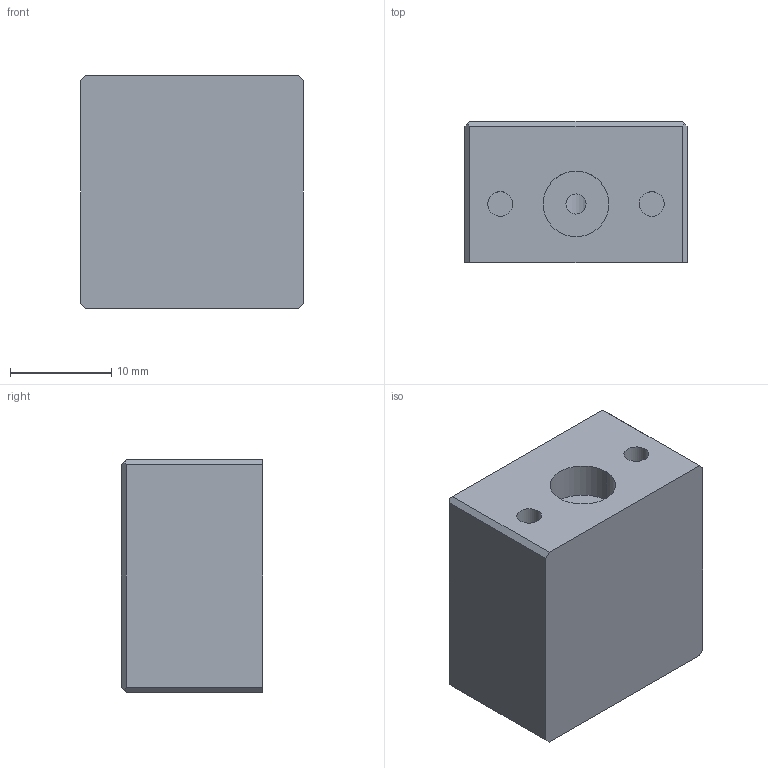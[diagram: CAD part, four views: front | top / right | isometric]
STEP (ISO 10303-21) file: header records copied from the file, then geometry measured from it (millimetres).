
FILE_DESCRIPTION(('CATIA V5 STEP Exchange'),'2;1');
FILE_NAME('G:\够快云库\系统集成开发部\1.部门成员\孙国\工装\气密检测工装\STP\轻卡悬浮阀\GZ-QKQM02_V1 密封头.stp','2021-08-26T02:01:22+00:00',('none'),('none'),'CATIA Version 5 Release 20 GA (IN-10)','CATIA V5 STEP AP214','none');
FILE_SCHEMA(('AUTOMOTIVE_DESIGN { 1 0 10303 214 1 1 1 1 }'));
Length unit declared in the file: millimetre
Products named in the file (1): 检测接头
Bounding box: 22 x 14 x 23 mm (x, y, z)
Volume: 6475.6 mm3; surface area: 2825.8 mm2
Topology: 1 solids, 1 shells, 31 faces, 72 edges, 48 vertices
Faces by surface type: plane 19, cylinder 12
Entity records: 875 total; most frequent: CARTESIAN_POINT 191, ORIENTED_EDGE 144, DIRECTION 106, EDGE_CURVE 72, VERTEX_POINT 48, AXIS2_PLACEMENT_3D 47, EDGE_LOOP 38, VECTOR 36
